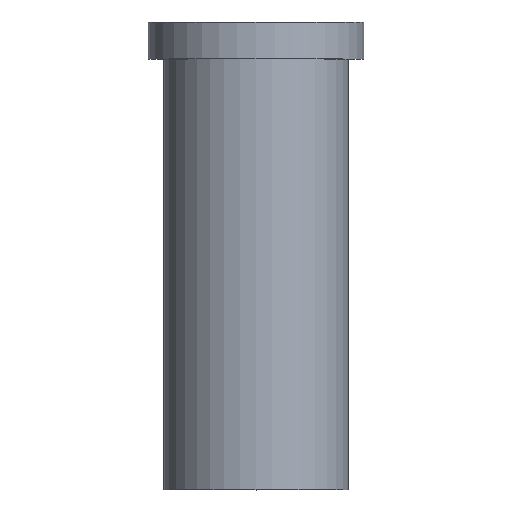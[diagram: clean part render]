
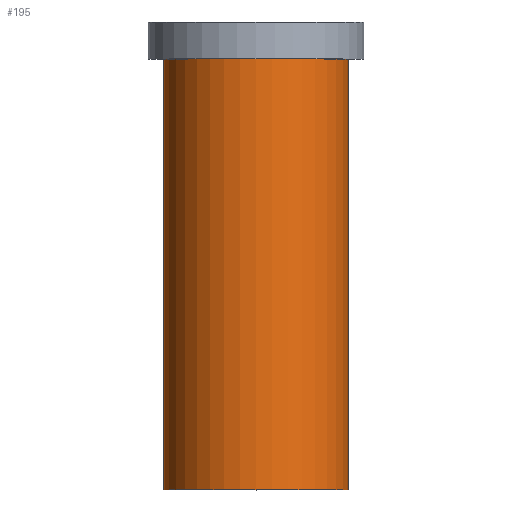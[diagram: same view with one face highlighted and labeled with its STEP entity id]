
A CAD part, top view. The second image highlights one B-rep face of the part: STEP entity #195.
In plain terms, the highlighted cylindrical face has radius 15 mm (diameter 30 mm), a full revolution.
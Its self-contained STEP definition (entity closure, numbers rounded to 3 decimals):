
#32=ORIENTED_EDGE('',*,*,#50,.T.);
#33=ORIENTED_EDGE('',*,*,#49,.F.);
#49=EDGE_CURVE('',#59,#59,#69,.T.);
#50=EDGE_CURVE('',#60,#60,#70,.T.);
#59=VERTEX_POINT('',#280);
#60=VERTEX_POINT('',#283);
#69=CIRCLE('',#213,15.);
#70=CIRCLE('',#215,15.);
#82=EDGE_LOOP('',(#32));
#83=EDGE_LOOP('',(#33));
#102=FACE_BOUND('',#82,.T.);
#103=FACE_BOUND('',#83,.T.);
#117=CYLINDRICAL_SURFACE('',#214,15.);
#195=ADVANCED_FACE('',(#102,#103),#117,.T.);
#213=AXIS2_PLACEMENT_3D('',#279,#241,#242);
#214=AXIS2_PLACEMENT_3D('',#281,#243,#244);
#215=AXIS2_PLACEMENT_3D('',#282,#245,#246);
#241=DIRECTION('',(0.,-1.,0.));
#242=DIRECTION('',(0.,0.,-1.));
#243=DIRECTION('',(0.,-1.,0.));
#244=DIRECTION('',(0.,0.,-1.));
#245=DIRECTION('',(0.,-1.,0.));
#246=DIRECTION('',(0.,0.,-1.));
#279=CARTESIAN_POINT('',(0.,0.,0.));
#280=CARTESIAN_POINT('',(0.,0.,-15.));
#281=CARTESIAN_POINT('',(0.,0.,0.));
#282=CARTESIAN_POINT('',(0.,70.,0.));
#283=CARTESIAN_POINT('',(0.,70.,-15.));
